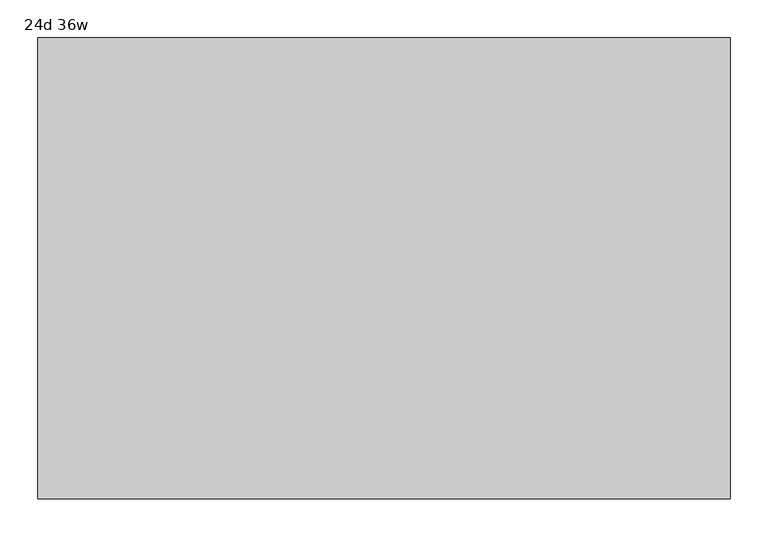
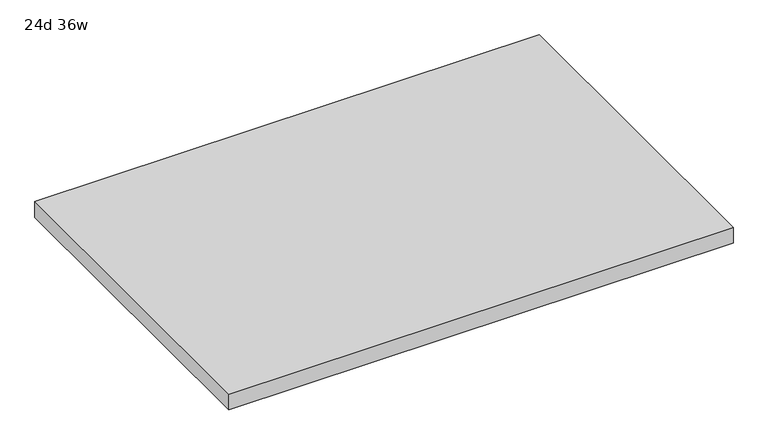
"""IFC4 building model written with IfcOpenShell, lengths in millimetres: furniture geometry, Haworth_Masters_StorageTop_Rectangular1 : 24d 36w."""

from ifc_helpers import new_model, si_unit, frame, origin, place, context, project, spatial, polyline, outline, extrude, source, transform, mapped, element, save


def furniture_24d_36w_b6dfe4a4(model_context):
    return source(origin(), model_context, "Body", "SweptSolid", [
        extrude(outline(polyline([(280.9875, -407.9875), (1195.3875, -407.9875), (1195.3875, -1017.5875), (280.9875, -1017.5875), (280.9875, -407.9875)])), frame((0.0, 0.0, 693.7375), z_axis=(0.0, 0.0, 1.0), x_axis=(1.0, 0.0, 0.0)), (0.0, 0.0, 1.0), 30.1625),
    ])


if __name__ == "__main__":
    model = new_model("IFC4")
    model_context = context("Model", 3, world=origin())
    ifc_project = project(units=[si_unit("LENGTHUNIT", "METRE", prefix="MILLI")], contexts=[model_context])
    site = spatial("IfcSite", under=ifc_project)
    building = spatial("IfcBuilding", under=site)
    placement = place(None, origin())
    furniture_24d_36w_shape = furniture_24d_36w_b6dfe4a4(model_context)
    element("IfcFurniture", 1, ObjectType="Haworth_Masters_StorageTop_Rectangular1 : 24d 36w", at=placement, inside=building, context=model_context, shape_type="MappedRepresentation", body=[
        mapped(furniture_24d_36w_shape, transform((0.0, 0.0, 0.0), x_axis=(1.0, 0.0, 0.0), y_axis=(0.0, 1.0, 0.0), z_axis=(0.0, 0.0, 1.0))),
    ])
    save(model, "model.ifc")
